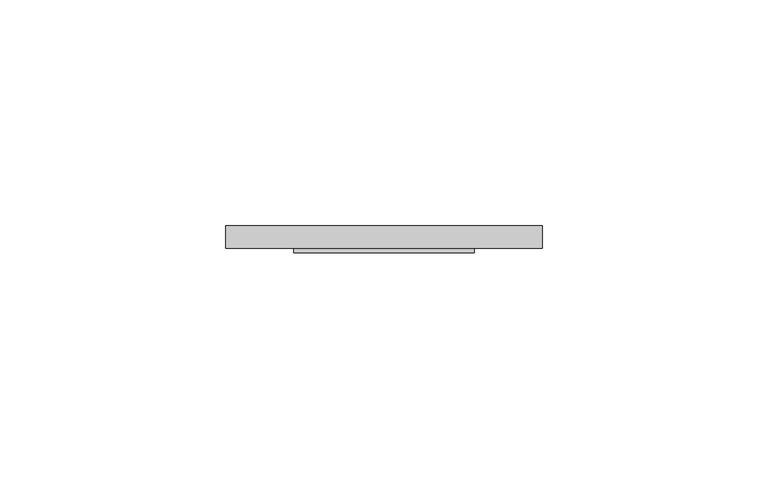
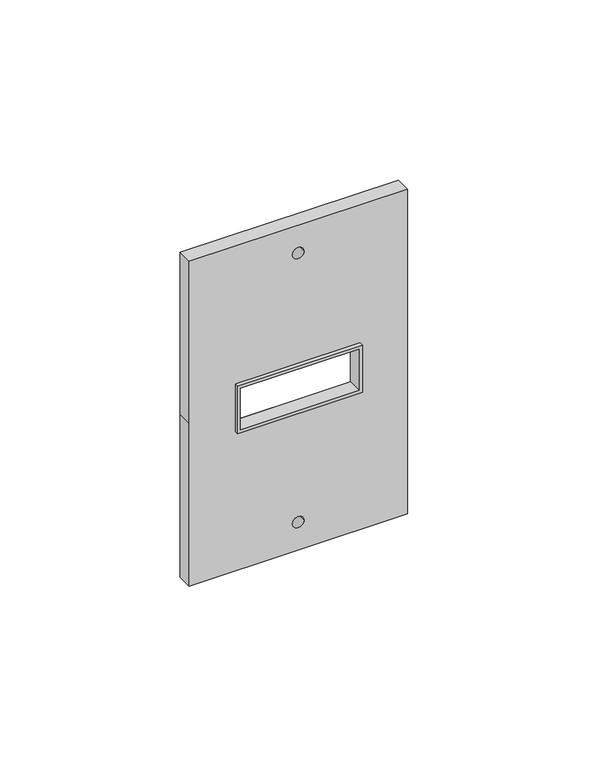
"""IFC4 building model written with IfcOpenShell, lengths in millimetres: light fixture geometry, Apagador escalera simple : Apagador."""

from ifc_helpers import new_model, si_unit, point, frame, frame_2d, origin, place, context, project, spatial, polyline, circle_curve, trimmed, segment, composite_curve, outline, extrude, source, transform, mapped, element, save


def light_fixture_3b2f0dbf(model_context):
    return source(origin(), model_context, "Body", "SweptSolid", [
        extrude(outline(polyline([(1092.0, 145.0), (1108.0, 145.0), (1108.0, 105.0), (1092.0, 105.0), (1092.0, 145.0)]), holes=[polyline([(1107.0, 106.0), (1107.0, 144.0), (1093.0, 144.0), (1093.0, 106.0), (1107.0, 106.0)])]), frame((0.0, -70.9684395, 0.0), z_axis=(0.0, 1.0, 0.0), x_axis=(0.0, 0.0, 1.0)), (0.0, 0.0, 1.0), 4.7658788),
        extrude(outline(polyline([(1155.0, 160.0), (1155.0, 90.0), (1100.0, 90.0), (1045.0, 90.0), (1045.0, 160.0), (1155.0, 160.0)]), holes=[composite_curve([segment(trimmed(circle_curve(frame_2d((1145.5814465, 125.0)), 1.8475425), [point((1145.5814465, 123.1524575))], [point((1145.5814465, 126.8475425))], True, "CARTESIAN"), True, "CONTINUOUS"), segment(trimmed(circle_curve(frame_2d((1145.5814465, 125.0)), 1.8475425), [point((1145.5814465, 126.8475425))], [point((1145.5814465, 123.1524575))], True, "CARTESIAN"), True, "CONTINUOUS")], self_intersect=False), composite_curve([segment(trimmed(circle_curve(frame_2d((1054.4185535, 125.0)), 1.8475425), [point((1054.4185535, 123.1524575))], [point((1054.4185535, 126.8475425))], True, "CARTESIAN"), True, "CONTINUOUS"), segment(trimmed(circle_curve(frame_2d((1054.4185535, 125.0)), 1.8475425), [point((1054.4185535, 126.8475425))], [point((1054.4185535, 123.1524575))], True, "CARTESIAN"), True, "CONTINUOUS")], self_intersect=False), polyline([(1108.0, 105.0), (1108.0, 145.0), (1092.0, 145.0), (1092.0, 105.0), (1108.0, 105.0)])]), frame((0.0, -70.0, 0.0), z_axis=(0.0, 1.0, 0.0), x_axis=(0.0, 0.0, 1.0)), (0.0, 0.0, 1.0), 5.0),
    ])


if __name__ == "__main__":
    model = new_model("IFC4")
    model_context = context("Model", 3, world=origin())
    ifc_project = project(units=[si_unit("LENGTHUNIT", "METRE", prefix="MILLI")], contexts=[model_context])
    site = spatial("IfcSite", under=ifc_project)
    building = spatial("IfcBuilding", under=site)
    placement = place(None, origin())
    light_fixture_shape = light_fixture_3b2f0dbf(model_context)
    element("IfcLightFixture", 1, ObjectType="Apagador escalera simple : Apagador", at=placement, inside=building, context=model_context, shape_type="MappedRepresentation", body=[
        mapped(light_fixture_shape, transform((0.0, 0.0, 0.0), x_axis=(1.0, 0.0, 0.0), y_axis=(0.0, 1.0, 0.0), z_axis=(0.0, 0.0, 1.0))),
    ])
    save(model, "model.ifc")
